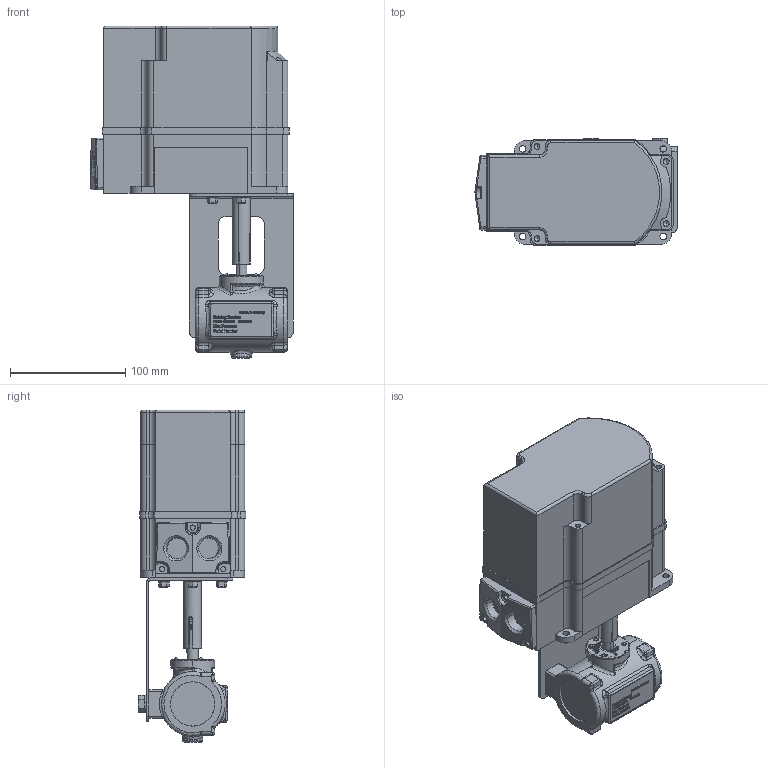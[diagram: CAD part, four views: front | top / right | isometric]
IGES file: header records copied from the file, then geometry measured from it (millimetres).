
Global section: file name: No Iges File Name specified; native system: AutoDesk Inventor R12.0; preprocessor: AutoDesk Inventor Iges Exporter R12.0; date: 20110328.090943; units: millimetre
Bounding box: 175.49 x 93.3 x 288 mm (x, y, z)
Volume: 2105135.4 mm3; surface area: 170616.4 mm2
Topology: 1 solids, 15 shells, 2851 faces, 7620 edges, 4955 vertices
Faces by surface type: plane 1472, bspline 1016, cylinder 186, revolution 95, cone 47, torus 25, sphere 10
Full cylindrical faces by diameter (mm): 9.2 x3, 14.8 x2
